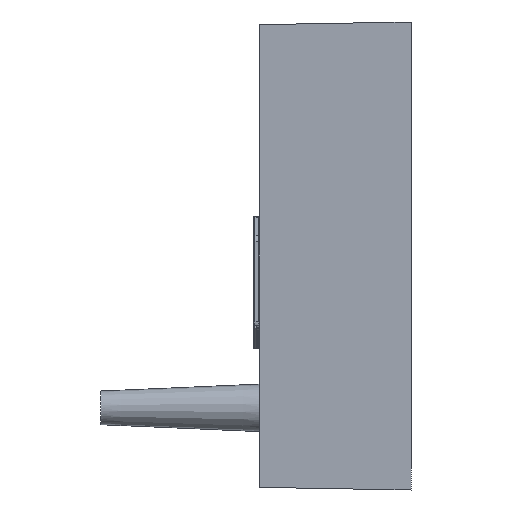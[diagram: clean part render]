
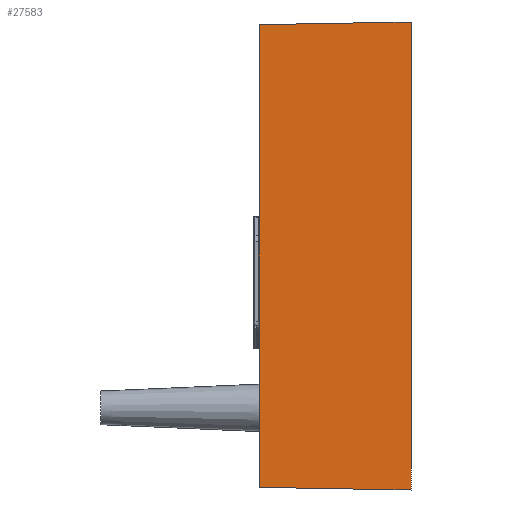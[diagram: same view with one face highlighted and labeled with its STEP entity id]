
A CAD part, left-side view. The second image highlights one B-rep face of the part: STEP entity #27583.
In plain terms, the highlighted planar face has unit normal (-1, 0.018, 0).
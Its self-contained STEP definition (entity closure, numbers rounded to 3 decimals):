
#1403 = VECTOR ( 'NONE', #26983, 1000. ) ;
#1468 = CARTESIAN_POINT ( 'NONE',  ( -29., 19., 0. ) ) ;
#2266 = CARTESIAN_POINT ( 'NONE',  ( -29., 19., -29. ) ) ;
#5061 = VERTEX_POINT ( 'NONE', #35094 ) ;
#5169 = DIRECTION ( 'NONE',  ( 0., 0., 1. ) ) ;
#5670 = ORIENTED_EDGE ( 'NONE', *, *, #43520, .T. ) ;
#6950 = CARTESIAN_POINT ( 'NONE',  ( -29., 19., -29. ) ) ;
#9057 = FACE_OUTER_BOUND ( 'NONE', #19243, .T. ) ;
#9913 = DIRECTION ( 'NONE',  ( 0., 0., 1. ) ) ;
#11488 = VERTEX_POINT ( 'NONE', #2266 ) ;
#14708 = DIRECTION ( 'NONE',  ( -0.017, -1., 0. ) ) ;
#14927 = CARTESIAN_POINT ( 'NONE',  ( -29.332, 0., -29.332 ) ) ;
#16056 = CARTESIAN_POINT ( 'NONE',  ( -29., 19., 29. ) ) ;
#16829 = CARTESIAN_POINT ( 'NONE',  ( -29., 19., 0. ) ) ;
#17230 = VECTOR ( 'NONE', #5169, 1000. ) ;
#17872 = CARTESIAN_POINT ( 'NONE',  ( -29., 19., 29. ) ) ;
#18091 = DIRECTION ( 'NONE',  ( -1., 0.017, 0. ) ) ;
#18569 = CARTESIAN_POINT ( 'NONE',  ( -29.332, 0., 0. ) ) ;
#19243 = EDGE_LOOP ( 'NONE', ( #26261, #41129, #22793, #5670 ) ) ;
#22793 = ORIENTED_EDGE ( 'NONE', *, *, #34534, .F. ) ;
#22843 = DIRECTION ( 'NONE',  ( -0.017, -1., 0.017 ) ) ;
#23008 = EDGE_CURVE ( 'NONE', #40962, #5061, #38700, .T. ) ;
#26261 = ORIENTED_EDGE ( 'NONE', *, *, #42167, .T. ) ;
#26691 = VECTOR ( 'NONE', #9913, 1000. ) ;
#26983 = DIRECTION ( 'NONE',  ( -0.017, -1., -0.017 ) ) ;
#27583 = ADVANCED_FACE ( 'NONE', ( #9057 ), #31417, .T. ) ;
#27830 = LINE ( 'NONE', #18569, #17230 ) ;
#31417 = PLANE ( 'NONE',  #37434 ) ;
#31999 = LINE ( 'NONE', #6950, #1403 ) ;
#34534 = EDGE_CURVE ( 'NONE', #11488, #40962, #41494, .T. ) ;
#35094 = CARTESIAN_POINT ( 'NONE',  ( -29.332, 0., 29.332 ) ) ;
#37434 = AXIS2_PLACEMENT_3D ( 'NONE', #1468, #18091, #14708 ) ;
#37628 = VECTOR ( 'NONE', #22843, 1000. ) ;
#38700 = LINE ( 'NONE', #16056, #37628 ) ;
#40962 = VERTEX_POINT ( 'NONE', #17872 ) ;
#41019 = VERTEX_POINT ( 'NONE', #14927 ) ;
#41129 = ORIENTED_EDGE ( 'NONE', *, *, #23008, .F. ) ;
#41494 = LINE ( 'NONE', #16829, #26691 ) ;
#42167 = EDGE_CURVE ( 'NONE', #41019, #5061, #27830, .T. ) ;
#43520 = EDGE_CURVE ( 'NONE', #11488, #41019, #31999, .T. ) ;
